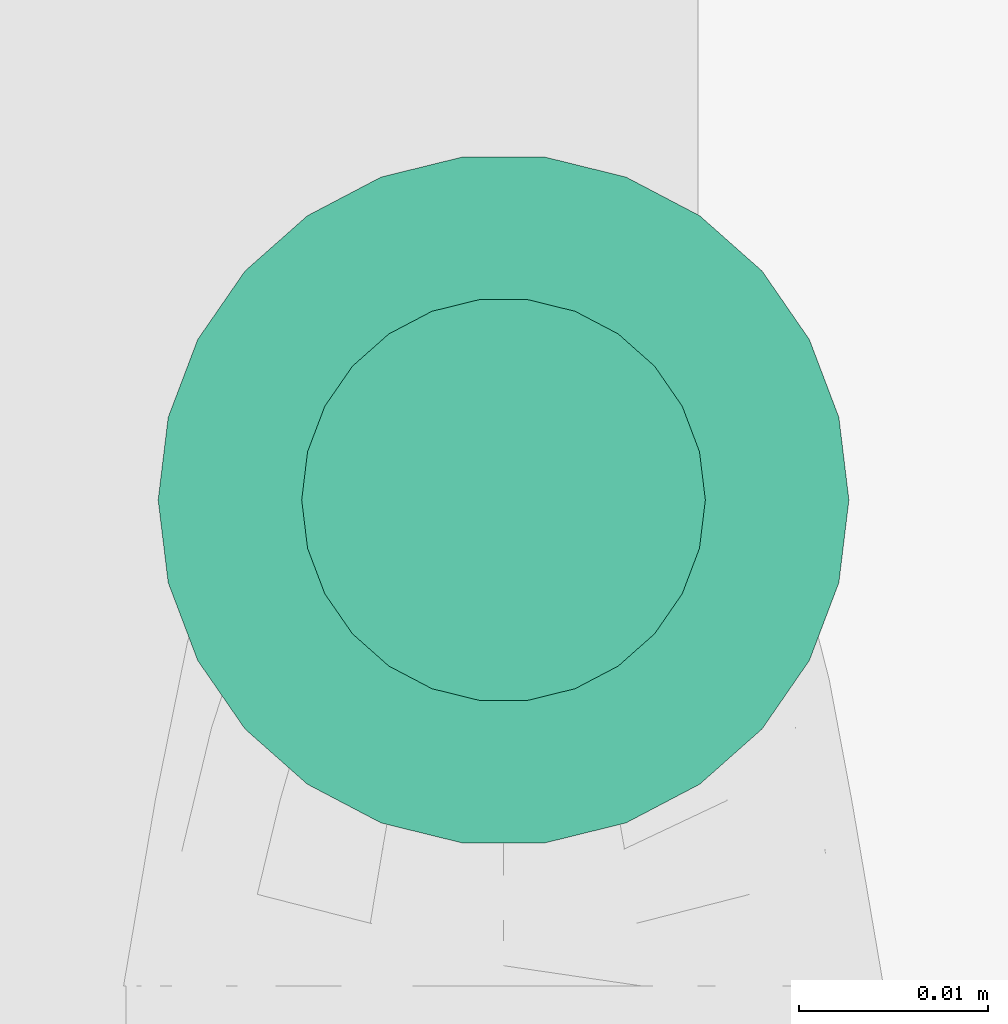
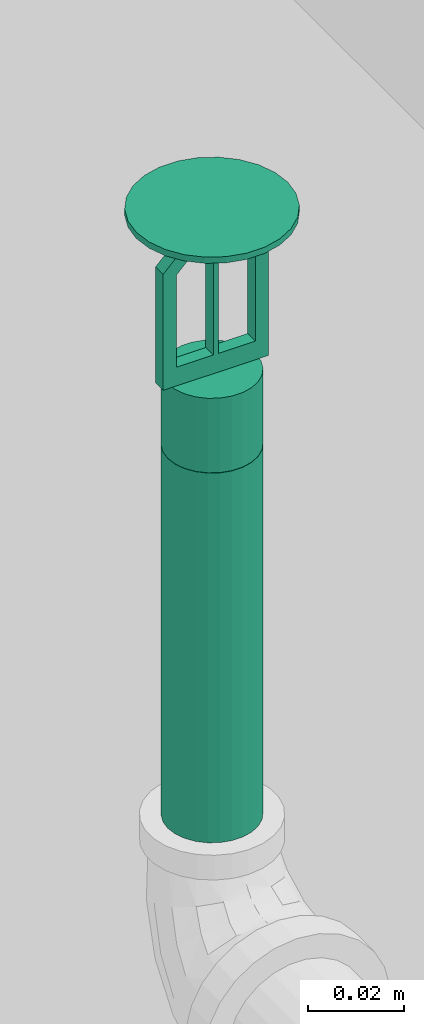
# One storey, part 95 of 108: 1 fire suppression terminal, 1 pipe segment.
"""IFC4 building model written with IfcOpenShell, lengths in feet."""

from ifc_helpers import new_model, entity, si_unit, converted_unit, derived_unit, direction, frame, frame_2d, origin, origin_2d_with_axis, place, context, subcontext, project, spatial, polyline, circle, outline, extrude, source, transform, mapped, material, type_object, type_shapes, element, save


model = new_model("IFC4")

# Units and contexts
model_context = context("Model", 3, precision=0.0001, world=origin(), true_north=direction((6.12303176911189e-17, 1.0)))
body_context = subcontext(model_context, "Body", "Model", "MODEL_VIEW")
ifc_project = project(units=[converted_unit("LENGTHUNIT", "FOOT", entity("IfcRatioMeasure", 0.3048), si_unit("LENGTHUNIT", "METRE"), dimensions=[1, 0, 0, 0, 0, 0, 0]), converted_unit("AREAUNIT", "SQUARE FOOT", entity("IfcRatioMeasure", 0.09290304), si_unit("AREAUNIT", "SQUARE_METRE"), dimensions=[2, 0, 0, 0, 0, 0, 0]), converted_unit("VOLUMEUNIT", "CUBIC FOOT", entity("IfcRatioMeasure", 0.028316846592), si_unit("VOLUMEUNIT", "CUBIC_METRE"), dimensions=[3, 0, 0, 0, 0, 0, 0]), converted_unit("PLANEANGLEUNIT", "DEGREE", entity("IfcRatioMeasure", 0.0174532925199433), si_unit("PLANEANGLEUNIT", "RADIAN"), dimensions=[0, 0, 0, 0, 0, 0, 0]), si_unit("MASSUNIT", "GRAM", prefix="KILO"), derived_unit("MASSDENSITYUNIT", [(si_unit("MASSUNIT", "GRAM", prefix="KILO"), 1), (si_unit("LENGTHUNIT", "METRE"), -3)]), si_unit("TIMEUNIT", "SECOND"), si_unit("FREQUENCYUNIT", "HERTZ"), si_unit("THERMODYNAMICTEMPERATUREUNIT", "DEGREE_CELSIUS"), derived_unit("THERMALTRANSMITTANCEUNIT", [(si_unit("MASSUNIT", "GRAM", prefix="KILO"), 1), (si_unit("THERMODYNAMICTEMPERATUREUNIT", "KELVIN"), -1), (si_unit("TIMEUNIT", "SECOND"), -3)]), derived_unit("VOLUMETRICFLOWRATEUNIT", [(si_unit("LENGTHUNIT", "METRE"), 3), (si_unit("TIMEUNIT", "SECOND"), -1)]), si_unit("ELECTRICCURRENTUNIT", "AMPERE"), si_unit("ELECTRICVOLTAGEUNIT", "VOLT"), si_unit("POWERUNIT", "WATT"), si_unit("FORCEUNIT", "NEWTON"), si_unit("ILLUMINANCEUNIT", "LUX"), si_unit("LUMINOUSFLUXUNIT", "LUMEN"), si_unit("LUMINOUSINTENSITYUNIT", "CANDELA"), derived_unit("USERDEFINED", [(si_unit("MASSUNIT", "GRAM", prefix="KILO"), -1), (si_unit("LENGTHUNIT", "METRE"), -2), (si_unit("TIMEUNIT", "SECOND"), 3), (si_unit("LUMINOUSFLUXUNIT", "LUMEN"), 1)]), derived_unit("LINEARVELOCITYUNIT", [(si_unit("LENGTHUNIT", "METRE"), 1), (si_unit("TIMEUNIT", "SECOND"), -1)]), si_unit("PRESSUREUNIT", "PASCAL"), derived_unit("USERDEFINED", [(si_unit("LENGTHUNIT", "METRE"), -2), (si_unit("MASSUNIT", "GRAM", prefix="KILO"), 1), (si_unit("TIMEUNIT", "SECOND"), -2)])], contexts=[model_context])

# Site, building, storey
site_placement = place(None, origin())
site = spatial("IfcSite", under=ifc_project, at=site_placement, Name="Default", CompositionType="ELEMENT")
building_placement = place(site_placement, origin())
building = spatial("IfcBuilding", under=site, at=building_placement, CompositionType="ELEMENT")
storey_placement = place(building_placement, frame((0.0, 0.0, 168.0)))
storey = spatial("IfcBuildingStorey", under=building, at=storey_placement, Name="Level 15", CompositionType="ELEMENT", Elevation=168.0)

# Pipe segment
pipe_segment_type = type_object("IfcPipeSegmentType", Name="Pipe Types:Fire Prot Sched 10 Main", PredefinedType="NOTDEFINED")
pipe_segment_placement = place(storey_placement, frame((-58.3599221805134, 13.094555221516, 10.2742577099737)))
element("IfcPipeSegment", 1, at=pipe_segment_placement, inside=storey, type_object=pipe_segment_type, Name="Pipe Types:Fire Prot Sched 10 Main", ObjectType="Pipe Types:Fire Prot Sched 10 Main", PredefinedType="NOTDEFINED", context=body_context, shape_type="SweptSolid", body=[
    extrude(circle(Radius=0.035, at=origin_2d_with_axis()), frame((0.0402338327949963, 0.0402338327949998, 0.0)), (0.0, 0.0, 1.0), 0.309075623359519),
])

# Fire suppression terminal
ifc_material = material(Name="Default", Category="Miscellaneous")
fire_suppression_terminal_type = type_object("IfcFireSuppressionTerminalType", Name="Standard", PredefinedType="NOTDEFINED", material=ifc_material)
shared_shape = source(origin(), body_context, "Body", "SweptSolid", [
    extrude(outline(polyline([(-0.0416666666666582, -0.0872160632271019), (0.0416666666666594, -0.0872160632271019), (0.0416666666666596, 0.00964585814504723), (0.0167345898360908, 0.0345779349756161), (0.0167345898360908, 0.0429922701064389), (-0.0167345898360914, 0.0429922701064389), (-0.0167345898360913, 0.0345779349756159), (-0.0416666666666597, 0.00964585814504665), (-0.0416666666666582, -0.0872160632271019)]), holes=[polyline([(0.00195312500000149, -0.0715910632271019), (0.00195312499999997, 0.0261635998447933), (0.0104175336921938, 0.0261635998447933), (0.0312499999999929, 0.00533113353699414), (0.0312499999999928, -0.0715910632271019), (0.00195312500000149, -0.0715910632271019)]), polyline([(-0.0019531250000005, -0.0715910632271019), (-0.0312499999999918, -0.0715910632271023), (-0.031249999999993, 0.00533113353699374), (-0.0104175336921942, 0.0261635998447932), (-0.00195312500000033, 0.0261635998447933), (-0.0019531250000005, -0.0715910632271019)])]), frame((0.0, -0.00520833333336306, 0.14971606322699), z_axis=(0.0, 1.0, 0.0), x_axis=(-1.0, 0.0, 0.0)), (0.0, 0.0, 1.0), 0.0104166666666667),
    extrude(circle(Radius=0.035, at=frame_2d((-2.76586283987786e-18, -4.44862351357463e-17), x_axis=(1.0, 0.0))), frame((0.0, 0.0, 0.0), z_axis=(0.0, 0.0, 1.0), x_axis=(-1.0, 0.0, 0.0)), (0.0, 0.0, 1.0), 0.0624999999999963),
    extrude(circle(Radius=0.0598958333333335, at=frame_2d((5.01992838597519e-20, -7.61297178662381e-17), x_axis=(1.0, 0.0))), frame((0.0, 0.0, 0.192708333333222), z_axis=(0.0, 0.0, 1.0), x_axis=(-1.0, 0.0, 0.0)), (0.0, 0.0, 1.0), 0.00520833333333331),
])
type_shapes(fire_suppression_terminal_type, [shared_shape])
fire_suppression_terminal_placement = place(storey_placement, frame((-58.3196883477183, 13.1347890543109, 10.5833333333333), z_axis=(0.0, 0.0, 1.0), x_axis=(-1.0, 0.0, 0.0)))
element("IfcFireSuppressionTerminal", 2, at=fire_suppression_terminal_placement, inside=storey, type_object=fire_suppression_terminal_type, material=ifc_material, Name="Upright:Standard", ObjectType="Upright:Standard", PredefinedType="NOTDEFINED", context=body_context, shape_type="MappedRepresentation", body=[
    mapped(shared_shape, transform((0.0, 0.0, 0.0), scale=1.0)),
])

save(model, "model.ifc")
